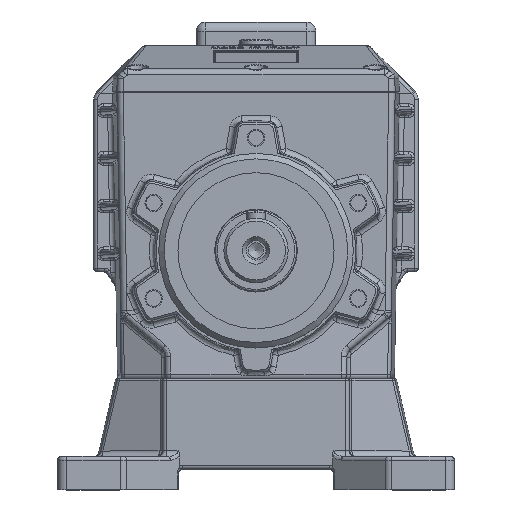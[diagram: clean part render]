
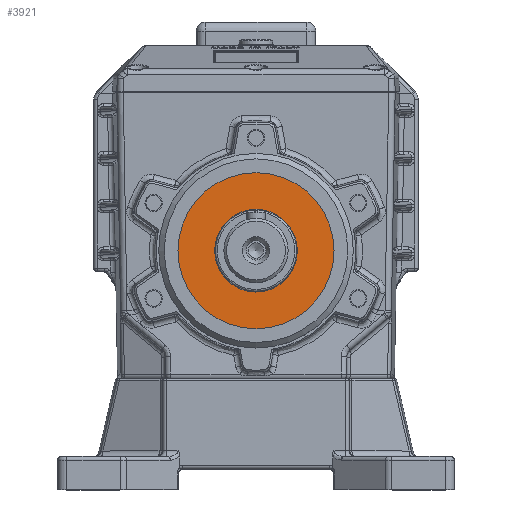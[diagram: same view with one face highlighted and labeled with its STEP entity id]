
A CAD part, top view. The second image highlights one B-rep face of the part: STEP entity #3921.
In plain terms, the highlighted planar face has unit normal (0, 0, 1).
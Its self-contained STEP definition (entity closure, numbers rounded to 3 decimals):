
#3921 = ADVANCED_FACE( '', ( #8551, #8552 ), #8553, .F. );
#8551 = FACE_BOUND( '', #20122, .T. );
#8552 = FACE_OUTER_BOUND( '', #20123, .T. );
#8553 = PLANE( '', #20124 );
#20122 = EDGE_LOOP( '', ( #33590 ) );
#20123 = EDGE_LOOP( '', ( #33591 ) );
#20124 = AXIS2_PLACEMENT_3D( '', #33592, #33593, #33594 );
#33590 = ORIENTED_EDGE( '', *, *, #42493, .T. );
#33591 = ORIENTED_EDGE( '', *, *, #39877, .F. );
#33592 = CARTESIAN_POINT( '', ( 0., 0., 12. ) );
#33593 = DIRECTION( '', ( 0., 0., -1. ) );
#33594 = DIRECTION( '', ( 1., 0., 0. ) );
#39877 = EDGE_CURVE( '', #46699, #46699, #46700, .T. );
#42493 = EDGE_CURVE( '', #50317, #50317, #50318, .T. );
#46699 = VERTEX_POINT( '', #58729 );
#46700 = CIRCLE( '', #58730, 42.5 );
#50317 = VERTEX_POINT( '', #66804 );
#50318 = CIRCLE( '', #66805, 22.5 );
#58729 = CARTESIAN_POINT( '', ( 0., 42.5, 12. ) );
#58730 = AXIS2_PLACEMENT_3D( '', #70487, #70488, #70489 );
#66804 = CARTESIAN_POINT( '', ( 0., 22.5, 12. ) );
#66805 = AXIS2_PLACEMENT_3D( '', #73063, #73064, #73065 );
#70487 = CARTESIAN_POINT( '', ( 0., 0., 12. ) );
#70488 = DIRECTION( '', ( 0., 0., -1. ) );
#70489 = DIRECTION( '', ( 0., 1., 0. ) );
#73063 = CARTESIAN_POINT( '', ( 0., 0., 12. ) );
#73064 = DIRECTION( '', ( 0., 0., -1. ) );
#73065 = DIRECTION( '', ( 0., 1., 0. ) );
